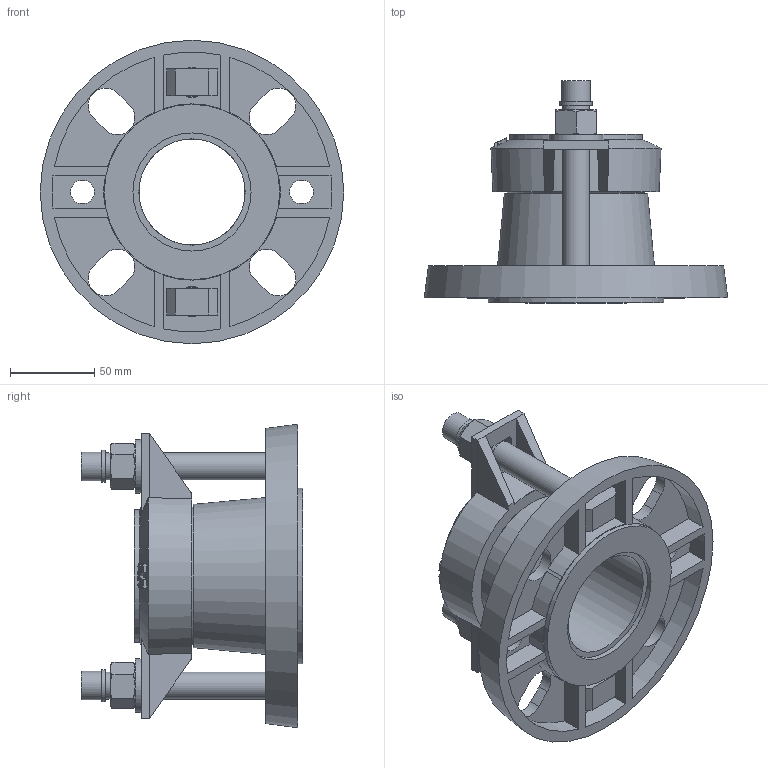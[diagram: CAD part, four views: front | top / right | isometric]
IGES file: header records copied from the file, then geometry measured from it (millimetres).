
Start section: SolidWorks IGES file using analytic representation for surfaces
Global section: file name: \\avksan2\techshare\PBM outline export from Enovia\O_623_10_DN050-63mm_X1XXXXX_REV01.igs; native system: SolidWorks 2019; preprocessor: SolidWorks 2019; author: pbm; date: 200417.102155; units: millimetre
Bounding box: 180 x 131.5 x 180 mm (x, y, z)
Surface area: 139914.4 mm2 (no closed solid volume)
Topology: 0 solids, 0 shells, 249 faces, 1226 edges, 1195 vertices
Faces by surface type: bspline 151, revolution 98
